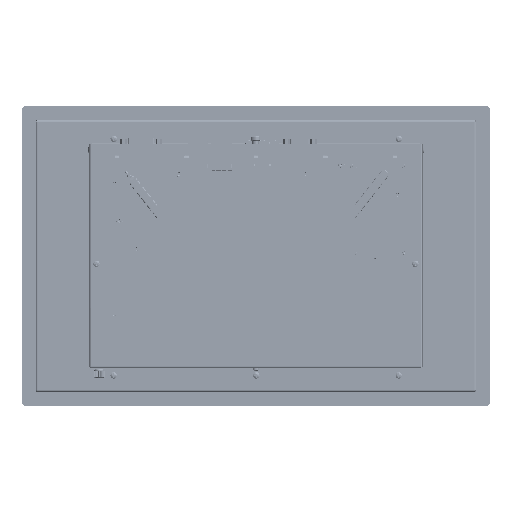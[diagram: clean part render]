
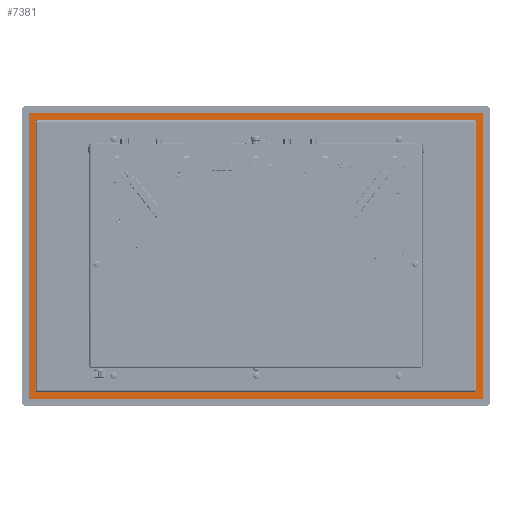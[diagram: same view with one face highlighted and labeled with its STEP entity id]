
A CAD part, front view. The second image highlights one B-rep face of the part: STEP entity #7381.
In plain terms, the highlighted planar face has unit normal (0, -1, 0).
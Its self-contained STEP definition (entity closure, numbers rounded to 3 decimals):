
#3520=CARTESIAN_POINT('',(208.,1.4,-127.));
#3521=DIRECTION('',(0.,1.,0.));
#3522=DIRECTION('',(1.,0.,0.));
#3523=AXIS2_PLACEMENT_3D('',#3520,#3521,#3522);
#3525=DIRECTION('',(-1.,0.,0.));
#3526=VECTOR('',#3525,416.);
#3527=CARTESIAN_POINT('',(208.,1.4,-128.));
#3528=LINE('',#3527,#3526);
#3529=CARTESIAN_POINT('',(-208.,1.4,-127.));
#3530=DIRECTION('',(0.,1.,0.));
#3531=DIRECTION('',(0.,0.,-1.));
#3532=AXIS2_PLACEMENT_3D('',#3529,#3530,#3531);
#3534=DIRECTION('',(0.,0.,1.));
#3535=VECTOR('',#3534,261.);
#3536=CARTESIAN_POINT('',(-209.,1.4,-127.));
#3537=LINE('',#3536,#3535);
#3538=CARTESIAN_POINT('',(-208.,1.4,134.));
#3539=DIRECTION('',(0.,1.,0.));
#3540=DIRECTION('',(-1.,0.,0.));
#3541=AXIS2_PLACEMENT_3D('',#3538,#3539,#3540);
#3543=DIRECTION('',(1.,0.,0.));
#3544=VECTOR('',#3543,416.);
#3545=CARTESIAN_POINT('',(-208.,1.4,135.));
#3546=LINE('',#3545,#3544);
#3547=CARTESIAN_POINT('',(208.,1.4,134.));
#3548=DIRECTION('',(0.,1.,0.));
#3549=DIRECTION('',(0.,0.,1.));
#3550=AXIS2_PLACEMENT_3D('',#3547,#3548,#3549);
#3552=DIRECTION('',(0.,0.,-1.));
#3553=VECTOR('',#3552,261.);
#3554=CARTESIAN_POINT('',(209.,1.4,134.));
#3555=LINE('',#3554,#3553);
#3556=DIRECTION('',(1.,0.,0.));
#3557=VECTOR('',#3556,403.);
#3558=CARTESIAN_POINT('',(-201.5,1.4,-120.5));
#3559=LINE('',#3558,#3557);
#3560=DIRECTION('',(0.,0.,1.));
#3561=VECTOR('',#3560,247.996);
#3562=CARTESIAN_POINT('',(201.5,1.4,-120.5));
#3563=LINE('',#3562,#3561);
#3564=DIRECTION('',(-1.,0.,0.));
#3565=VECTOR('',#3564,403.);
#3566=CARTESIAN_POINT('',(201.5,1.4,127.496));
#3567=LINE('',#3566,#3565);
#3568=DIRECTION('',(0.,0.,-1.));
#3569=VECTOR('',#3568,247.996);
#3570=CARTESIAN_POINT('',(-201.5,1.4,127.496));
#3571=LINE('',#3570,#3569);
#3870=CARTESIAN_POINT('',(208.,1.4,-128.));
#3871=CARTESIAN_POINT('',(209.,1.4,-127.));
#3872=VERTEX_POINT('',#3870);
#3873=VERTEX_POINT('',#3871);
#3874=CARTESIAN_POINT('',(209.,1.4,134.));
#3875=VERTEX_POINT('',#3874);
#3876=CARTESIAN_POINT('',(208.,1.4,135.));
#3877=VERTEX_POINT('',#3876);
#3878=CARTESIAN_POINT('',(-208.,1.4,135.));
#3879=VERTEX_POINT('',#3878);
#3880=CARTESIAN_POINT('',(-209.,1.4,134.));
#3881=VERTEX_POINT('',#3880);
#3882=CARTESIAN_POINT('',(-209.,1.4,-127.));
#3883=VERTEX_POINT('',#3882);
#3884=CARTESIAN_POINT('',(-208.,1.4,-128.));
#3885=VERTEX_POINT('',#3884);
#3886=CARTESIAN_POINT('',(201.5,1.4,-120.5));
#3887=CARTESIAN_POINT('',(-201.5,1.4,-120.5));
#3888=VERTEX_POINT('',#3886);
#3889=VERTEX_POINT('',#3887);
#3890=CARTESIAN_POINT('',(-201.5,1.4,127.496));
#3891=VERTEX_POINT('',#3890);
#3892=CARTESIAN_POINT('',(201.5,1.4,127.496));
#3893=VERTEX_POINT('',#3892);
#7348=CARTESIAN_POINT('',(0.,1.4,0.));
#7349=DIRECTION('',(0.,-1.,0.));
#7350=DIRECTION('',(-1.,0.,0.));
#7351=AXIS2_PLACEMENT_3D('',#7348,#7349,#7350);
#7352=PLANE('',#7351);
#7354=ORIENTED_EDGE('',*,*,#7353,.T.);
#7356=ORIENTED_EDGE('',*,*,#7355,.T.);
#7358=ORIENTED_EDGE('',*,*,#7357,.T.);
#7360=ORIENTED_EDGE('',*,*,#7359,.T.);
#7362=ORIENTED_EDGE('',*,*,#7361,.T.);
#7364=ORIENTED_EDGE('',*,*,#7363,.T.);
#7366=ORIENTED_EDGE('',*,*,#7365,.T.);
#7368=ORIENTED_EDGE('',*,*,#7367,.T.);
#7369=EDGE_LOOP('',(#7354,#7356,#7358,#7360,#7362,#7364,#7366,#7368));
#7370=FACE_OUTER_BOUND('',#7369,.F.);
#7372=ORIENTED_EDGE('',*,*,#7371,.T.);
#7374=ORIENTED_EDGE('',*,*,#7373,.T.);
#7376=ORIENTED_EDGE('',*,*,#7375,.T.);
#7378=ORIENTED_EDGE('',*,*,#7377,.T.);
#7379=EDGE_LOOP('',(#7372,#7374,#7376,#7378));
#7380=FACE_BOUND('',#7379,.F.);
#3524=CIRCLE('',#3523,1.);
#3533=CIRCLE('',#3532,1.);
#3542=CIRCLE('',#3541,1.);
#3551=CIRCLE('',#3550,1.);
#7353=EDGE_CURVE('',#3873,#3872,#3524,.T.);
#7355=EDGE_CURVE('',#3872,#3885,#3528,.T.);
#7357=EDGE_CURVE('',#3885,#3883,#3533,.T.);
#7359=EDGE_CURVE('',#3883,#3881,#3537,.T.);
#7361=EDGE_CURVE('',#3881,#3879,#3542,.T.);
#7363=EDGE_CURVE('',#3879,#3877,#3546,.T.);
#7365=EDGE_CURVE('',#3877,#3875,#3551,.T.);
#7367=EDGE_CURVE('',#3875,#3873,#3555,.T.);
#7371=EDGE_CURVE('',#3889,#3888,#3559,.T.);
#7373=EDGE_CURVE('',#3888,#3893,#3563,.T.);
#7375=EDGE_CURVE('',#3893,#3891,#3567,.T.);
#7377=EDGE_CURVE('',#3891,#3889,#3571,.T.);
#7381=ADVANCED_FACE('',(#7370,#7380),#7352,.T.);
